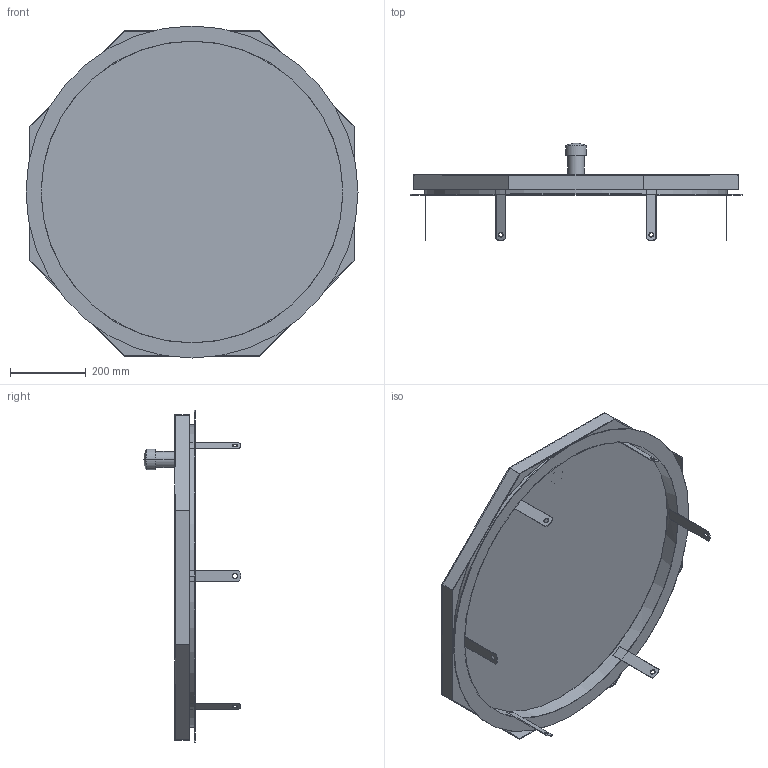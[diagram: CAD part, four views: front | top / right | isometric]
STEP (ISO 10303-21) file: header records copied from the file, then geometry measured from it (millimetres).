
FILE_DESCRIPTION((''),'2;1');
FILE_NAME('017_000107','2018-09-06T',('wj'),('HUBER SE'),'PRO/ENGINEER BY PARAMETRIC TECHNOLOGY CORPORATION, 2017170','PRO/ENGINEER BY PARAMETRIC TECHNOLOGY CORPORATION, 2017170','');
FILE_SCHEMA(('AUTOMOTIVE_DESIGN { 1 0 10303 214 1 1 1 1 }'));
Length unit declared in the file: millimetre
Products named in the file (1): 017_000107
Bounding box: 875 x 256 x 875 mm (x, y, z)
Volume: 2019586.6 mm3; surface area: 1904624.3 mm2
Topology: 2 solids, 2 shells, 83 faces, 226 edges, 149 vertices
Faces by surface type: plane 53, cylinder 28, sphere 2
Entity records: 3249 total; most frequent: DIRECTION 473, CARTESIAN_POINT 467, ORIENTED_EDGE 448, EDGE_CURVE 224, AXIS2_PLACEMENT_3D 158, VECTOR 154, LINE 154, VERTEX_POINT 149
